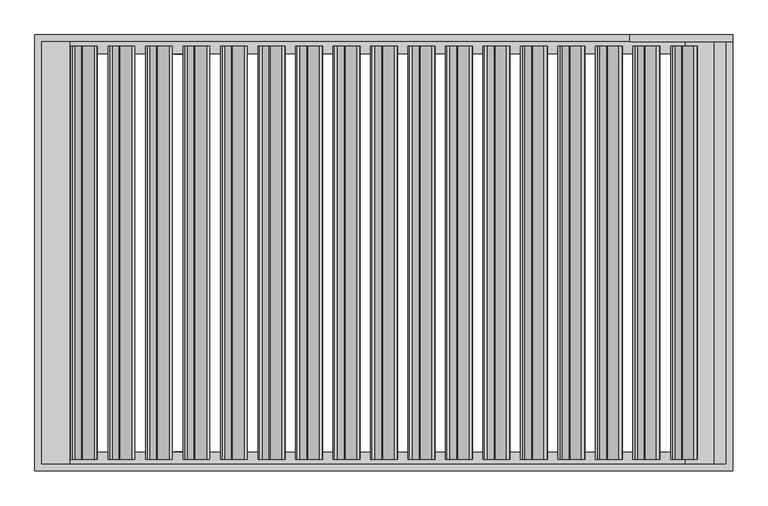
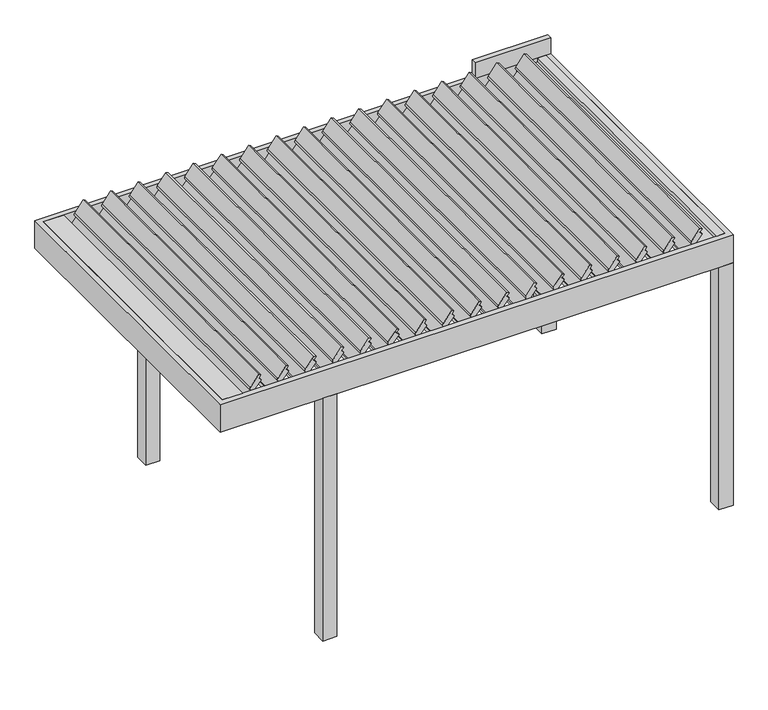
"""IFC4 building model written with IfcOpenShell, lengths in millimetres: proxy geometry, Renson_Algarve_Single : Algarve - Single."""

from ifc_helpers import new_model, si_unit, point, frame, frame_2d, origin, origin_with_axes, place, context, project, spatial, polyline, circle_curve, trimmed, segment, composite_curve, outline, extrude, faceted_brep, source, transform, mapped, element, save


def generic_models_5f7e2792(model_context):
    return source(origin(), model_context, "Body", "SolidModel", [
        extrude(outline(composite_curve([segment(polyline([(2268.6941425, 1583.0112963), (2288.328832, 1563.3766067), (2311.3082125, 1580.8505337), (2321.2056128, 1563.7077334), (2233.54674, 1497.0503775)]), True, "CONTINUOUS"), segment(trimmed(circle_curve(frame_2d((2224.4673302, 1508.9904076)), 15.0), [point((2233.54674, 1497.0503775))], [point((2214.825516, 1497.4997409))], False, "CARTESIAN"), True, "CONTINUOUS"), segment(polyline([(2214.825516, 1497.4997409), (2199.8675689, 1510.0509488), (2132.6580652, 1453.6554791), (2141.3292113, 1438.6366136), (2129.1546918, 1429.3788939), (2109.2836092, 1449.2499766), (2268.6941425, 1583.0112963)]), True, "CONTINUOUS")], self_intersect=False)), frame((0.0, -1185.0, 0.0), z_axis=(0.0, 1.0, 0.0), x_axis=(0.0, 0.0, 1.0)), (0.0, 0.0, 1.0), 2370.0),
        extrude(outline(composite_curve([segment(polyline([(2268.6941425, 1368.0004915), (2288.328832, 1348.3658019), (2311.3082125, 1365.8397289), (2321.2056128, 1348.6969286), (2233.54674, 1282.0395728)]), True, "CONTINUOUS"), segment(trimmed(circle_curve(frame_2d((2224.4673302, 1293.9796028)), 15.0), [point((2233.54674, 1282.0395728))], [point((2214.825516, 1282.4889361))], False, "CARTESIAN"), True, "CONTINUOUS"), segment(polyline([(2214.825516, 1282.4889361), (2199.8675689, 1295.0401441), (2132.6580652, 1238.6446743), (2141.3292113, 1223.6258088), (2129.1546918, 1214.3680891), (2109.2836092, 1234.2391718), (2268.6941425, 1368.0004915)]), True, "CONTINUOUS")], self_intersect=False)), frame((0.0, -1185.0, 0.0), z_axis=(0.0, 1.0, 0.0), x_axis=(0.0, 0.0, 1.0)), (0.0, 0.0, 1.0), 2370.0),
        extrude(outline(composite_curve([segment(polyline([(2268.6941425, 1152.9896867), (2288.328832, 1133.3549972), (2311.3082125, 1150.8289241), (2321.2056128, 1133.6861238), (2233.54674, 1067.028768)]), True, "CONTINUOUS"), segment(trimmed(circle_curve(frame_2d((2224.4673302, 1078.968798)), 15.0), [point((2233.54674, 1067.028768))], [point((2214.825516, 1067.4781314))], False, "CARTESIAN"), True, "CONTINUOUS"), segment(polyline([(2214.825516, 1067.4781314), (2199.8675689, 1080.0293393), (2132.6580652, 1023.6338695), (2141.3292113, 1008.615004), (2129.1546918, 999.3572843), (2109.2836092, 1019.228367), (2268.6941425, 1152.9896867)]), True, "CONTINUOUS")], self_intersect=False)), frame((0.0, -1185.0, 0.0), z_axis=(0.0, 1.0, 0.0), x_axis=(0.0, 0.0, 1.0)), (0.0, 0.0, 1.0), 2370.0),
        extrude(outline(composite_curve([segment(polyline([(2268.6941425, 937.9788819), (2288.328832, 918.3441924), (2311.3082125, 935.8181193), (2321.2056128, 918.675319), (2233.54674, 852.0179632)]), True, "CONTINUOUS"), segment(trimmed(circle_curve(frame_2d((2224.4673302, 863.9579932)), 15.0), [point((2233.54674, 852.0179632))], [point((2214.825516, 852.4673266))], False, "CARTESIAN"), True, "CONTINUOUS"), segment(polyline([(2214.825516, 852.4673266), (2199.8675689, 865.0185345), (2132.6580652, 808.6230647), (2141.3292113, 793.6041993), (2129.1546918, 784.3464796), (2109.2836092, 804.2175622), (2268.6941425, 937.9788819)]), True, "CONTINUOUS")], self_intersect=False)), frame((0.0, -1185.0, 0.0), z_axis=(0.0, 1.0, 0.0), x_axis=(0.0, 0.0, 1.0)), (0.0, 0.0, 1.0), 2370.0),
        extrude(outline(composite_curve([segment(polyline([(2268.6941425, 722.9680771), (2288.328832, 703.3333876), (2311.3082125, 720.8073145), (2321.2056128, 703.6645142), (2233.54674, 637.0071584)]), True, "CONTINUOUS"), segment(trimmed(circle_curve(frame_2d((2224.4673302, 648.9471885)), 15.0), [point((2233.54674, 637.0071584))], [point((2214.825516, 637.4565218))], False, "CARTESIAN"), True, "CONTINUOUS"), segment(polyline([(2214.825516, 637.4565218), (2199.8675689, 650.0077297), (2132.6580652, 593.61226), (2141.3292113, 578.5933945), (2129.1546918, 569.3356748), (2109.2836092, 589.2067574), (2268.6941425, 722.9680771)]), True, "CONTINUOUS")], self_intersect=False)), frame((0.0, -1185.0, 0.0), z_axis=(0.0, 1.0, 0.0), x_axis=(0.0, 0.0, 1.0)), (0.0, 0.0, 1.0), 2370.0),
        extrude(outline(composite_curve([segment(polyline([(2268.6941425, 507.9572723), (2288.328832, 488.3225828), (2311.3082125, 505.7965098), (2321.2056128, 488.6537095), (2233.54674, 421.9963536)]), True, "CONTINUOUS"), segment(trimmed(circle_curve(frame_2d((2224.4673302, 433.9363837)), 15.0), [point((2233.54674, 421.9963536))], [point((2214.825516, 422.445717))], False, "CARTESIAN"), True, "CONTINUOUS"), segment(polyline([(2214.825516, 422.445717), (2199.8675689, 434.9969249), (2132.6580652, 378.6014552), (2141.3292113, 363.5825897), (2129.1546918, 354.32487), (2109.2836092, 374.1959527), (2268.6941425, 507.9572723)]), True, "CONTINUOUS")], self_intersect=False)), frame((0.0, -1185.0, 0.0), z_axis=(0.0, 1.0, 0.0), x_axis=(0.0, 0.0, 1.0)), (0.0, 0.0, 1.0), 2370.0),
        extrude(outline(composite_curve([segment(polyline([(2268.6941425, 292.9464676), (2288.328832, 273.311778), (2311.3082125, 290.785705), (2321.2056128, 273.6429047), (2233.54674, 206.9855488)]), True, "CONTINUOUS"), segment(trimmed(circle_curve(frame_2d((2224.4673302, 218.9255789)), 15.0), [point((2233.54674, 206.9855488))], [point((2214.825516, 207.4349122))], False, "CARTESIAN"), True, "CONTINUOUS"), segment(polyline([(2214.825516, 207.4349122), (2199.8675689, 219.9861202), (2132.6580652, 163.5906504), (2141.3292113, 148.5717849), (2129.1546918, 139.3140652), (2109.2836092, 159.1851479), (2268.6941425, 292.9464676)]), True, "CONTINUOUS")], self_intersect=False)), frame((0.0, -1185.0, 0.0), z_axis=(0.0, 1.0, 0.0), x_axis=(0.0, 0.0, 1.0)), (0.0, 0.0, 1.0), 2370.0),
        extrude(outline(composite_curve([segment(polyline([(2268.6941425, 77.9356628), (2288.328832, 58.3009732), (2311.3082125, 75.7749002), (2321.2056128, 58.6320999), (2233.54674, -8.0252559)]), True, "CONTINUOUS"), segment(trimmed(circle_curve(frame_2d((2224.4673302, 3.9147741)), 15.0), [point((2233.54674, -8.0252559))], [point((2214.825516, -7.5758925))], False, "CARTESIAN"), True, "CONTINUOUS"), segment(polyline([(2214.825516, -7.5758925), (2199.8675689, 4.9753154), (2132.6580652, -51.4201544), (2141.3292113, -66.4390199), (2129.1546918, -75.6967396), (2109.2836092, -55.8256569), (2268.6941425, 77.9356628)]), True, "CONTINUOUS")], self_intersect=False)), frame((0.0, -1185.0, 0.0), z_axis=(0.0, 1.0, 0.0), x_axis=(0.0, 0.0, 1.0)), (0.0, 0.0, 1.0), 2370.0),
        extrude(outline(composite_curve([segment(polyline([(2268.6941425, -137.075142), (2288.328832, -156.7098315), (2311.3082125, -139.2359046), (2321.2056128, -156.3787049), (2233.54674, -223.0360607)]), True, "CONTINUOUS"), segment(trimmed(circle_curve(frame_2d((2224.4673302, -211.0960307)), 15.0), [point((2233.54674, -223.0360607))], [point((2214.825516, -222.5866973))], False, "CARTESIAN"), True, "CONTINUOUS"), segment(polyline([(2214.825516, -222.5866973), (2199.8675689, -210.0354894), (2132.6580652, -266.4309592), (2141.3292113, -281.4498246), (2129.1546918, -290.7075443), (2109.2836092, -270.8364617), (2268.6941425, -137.075142)]), True, "CONTINUOUS")], self_intersect=False)), frame((0.0, -1185.0, 0.0), z_axis=(0.0, 1.0, 0.0), x_axis=(0.0, 0.0, 1.0)), (0.0, 0.0, 1.0), 2370.0),
        extrude(outline(composite_curve([segment(polyline([(2268.6941425, -352.0859468), (2288.328832, -371.7206363), (2311.3082125, -354.2467094), (2321.2056128, -371.3895097), (2233.54674, -438.0468655)]), True, "CONTINUOUS"), segment(trimmed(circle_curve(frame_2d((2224.4673302, -426.1068355)), 15.0), [point((2233.54674, -438.0468655))], [point((2214.825516, -437.5975021))], False, "CARTESIAN"), True, "CONTINUOUS"), segment(polyline([(2214.825516, -437.5975021), (2199.8675689, -425.0462942), (2132.6580652, -481.4417639), (2141.3292113, -496.4606294), (2129.1546918, -505.7183491), (2109.2836092, -485.8472665), (2268.6941425, -352.0859468)]), True, "CONTINUOUS")], self_intersect=False)), frame((0.0, -1185.0, 0.0), z_axis=(0.0, 1.0, 0.0), x_axis=(0.0, 0.0, 1.0)), (0.0, 0.0, 1.0), 2370.0),
        extrude(outline(composite_curve([segment(polyline([(2268.6941425, -567.0967516), (2288.328832, -586.7314411), (2311.3082125, -569.2575141), (2321.2056128, -586.4003144), (2233.54674, -653.0576703)]), True, "CONTINUOUS"), segment(trimmed(circle_curve(frame_2d((2224.4673302, -641.1176402)), 15.0), [point((2233.54674, -653.0576703))], [point((2214.825516, -652.6083069))], False, "CARTESIAN"), True, "CONTINUOUS"), segment(polyline([(2214.825516, -652.6083069), (2199.8675689, -640.057099), (2132.6580652, -696.4525687), (2141.3292113, -711.4714342), (2129.1546918, -720.7291539), (2109.2836092, -700.8580713), (2268.6941425, -567.0967516)]), True, "CONTINUOUS")], self_intersect=False)), frame((0.0, -1185.0, 0.0), z_axis=(0.0, 1.0, 0.0), x_axis=(0.0, 0.0, 1.0)), (0.0, 0.0, 1.0), 2370.0),
        extrude(outline(composite_curve([segment(polyline([(2268.6941425, -782.1075563), (2288.328832, -801.7422459), (2311.3082125, -784.2683189), (2321.2056128, -801.4111192), (2233.54674, -868.0684751)]), True, "CONTINUOUS"), segment(trimmed(circle_curve(frame_2d((2224.4673302, -856.128445)), 15.0), [point((2233.54674, -868.0684751))], [point((2214.825516, -867.6191117))], False, "CARTESIAN"), True, "CONTINUOUS"), segment(polyline([(2214.825516, -867.6191117), (2199.8675689, -855.0679037), (2132.6580652, -911.4633735), (2141.3292113, -926.482239), (2129.1546918, -935.7399587), (2109.2836092, -915.868876), (2268.6941425, -782.1075563)]), True, "CONTINUOUS")], self_intersect=False)), frame((0.0, -1185.0, 0.0), z_axis=(0.0, 1.0, 0.0), x_axis=(0.0, 0.0, 1.0)), (0.0, 0.0, 1.0), 2370.0),
        extrude(outline(composite_curve([segment(polyline([(2268.6941425, -997.1183611), (2288.328832, -1016.7530507), (2311.3082125, -999.2791237), (2321.2056128, -1016.421924), (2233.54674, -1083.0792798)]), True, "CONTINUOUS"), segment(trimmed(circle_curve(frame_2d((2224.4673302, -1071.1392498)), 15.0), [point((2233.54674, -1083.0792798))], [point((2214.825516, -1082.6299164))], False, "CARTESIAN"), True, "CONTINUOUS"), segment(polyline([(2214.825516, -1082.6299164), (2199.8675689, -1070.0787085), (2132.6580652, -1126.4741783), (2141.3292113, -1141.4930438), (2129.1546918, -1150.7507635), (2109.2836092, -1130.8796808), (2268.6941425, -997.1183611)]), True, "CONTINUOUS")], self_intersect=False)), frame((0.0, -1185.0, 0.0), z_axis=(0.0, 1.0, 0.0), x_axis=(0.0, 0.0, 1.0)), (0.0, 0.0, 1.0), 2370.0),
        extrude(outline(composite_curve([segment(polyline([(2268.6941425, -1212.1291659), (2288.328832, -1231.7638554), (2311.3082125, -1214.2899285), (2321.2056128, -1231.4327288), (2233.54674, -1298.0900846)]), True, "CONTINUOUS"), segment(trimmed(circle_curve(frame_2d((2224.4673302, -1286.1500546)), 15.0), [point((2233.54674, -1298.0900846))], [point((2214.825516, -1297.6407212))], False, "CARTESIAN"), True, "CONTINUOUS"), segment(polyline([(2214.825516, -1297.6407212), (2199.8675689, -1285.0895133), (2132.6580652, -1341.4849831), (2141.3292113, -1356.5038486), (2129.1546918, -1365.7615683), (2109.2836092, -1345.8904856), (2268.6941425, -1212.1291659)]), True, "CONTINUOUS")], self_intersect=False)), frame((0.0, -1185.0, 0.0), z_axis=(0.0, 1.0, 0.0), x_axis=(0.0, 0.0, 1.0)), (0.0, 0.0, 1.0), 2370.0),
        extrude(outline(composite_curve([segment(polyline([(2268.6941425, -1427.1399707), (2288.328832, -1446.7746602), (2311.3082125, -1429.3007333), (2321.2056128, -1446.4435336), (2233.54674, -1513.1008894)]), True, "CONTINUOUS"), segment(trimmed(circle_curve(frame_2d((2224.4673302, -1501.1608594)), 15.0), [point((2233.54674, -1513.1008894))], [point((2214.825516, -1512.651526))], False, "CARTESIAN"), True, "CONTINUOUS"), segment(polyline([(2214.825516, -1512.651526), (2199.8675689, -1500.1003181), (2132.6580652, -1556.4957879), (2141.3292113, -1571.5146533), (2129.1546918, -1580.772373), (2109.2836092, -1560.9012904), (2268.6941425, -1427.1399707)]), True, "CONTINUOUS")], self_intersect=False)), frame((0.0, -1185.0, 0.0), z_axis=(0.0, 1.0, 0.0), x_axis=(0.0, 0.0, 1.0)), (0.0, 0.0, 1.0), 2370.0),
        extrude(outline(composite_curve([segment(polyline([(2268.6941425, 1798.022101), (2288.328832, 1778.3874115), (2311.3082125, 1795.8613385), (2321.2056128, 1778.7185382), (2233.54674, 1712.0611823)]), True, "CONTINUOUS"), segment(trimmed(circle_curve(frame_2d((2224.4673302, 1724.0012124)), 15.0), [point((2233.54674, 1712.0611823))], [point((2214.825516, 1712.5105457))], False, "CARTESIAN"), True, "CONTINUOUS"), segment(polyline([(2214.825516, 1712.5105457), (2199.8675689, 1725.0617536), (2132.6580652, 1668.6662839), (2141.3292113, 1653.6474184), (2129.1546918, 1644.3896987), (2109.2836092, 1664.2607813), (2268.6941425, 1798.022101)]), True, "CONTINUOUS")], self_intersect=False)), frame((0.0, -1185.0, 0.0), z_axis=(0.0, 1.0, 0.0), x_axis=(0.0, 0.0, 1.0)), (0.0, 0.0, 1.0), 2370.0),
        extrude(outline(composite_curve([segment(polyline([(2268.6941425, -1642.1507755), (2288.328832, -1661.785465), (2311.3082125, -1644.3115381), (2321.2056128, -1661.4543384), (2233.54674, -1728.1116942)]), True, "CONTINUOUS"), segment(trimmed(circle_curve(frame_2d((2224.4673302, -1716.1716641)), 15.0), [point((2233.54674, -1728.1116942))], [point((2214.825516, -1727.6623308))], False, "CARTESIAN"), True, "CONTINUOUS"), segment(polyline([(2214.825516, -1727.6623308), (2199.8675689, -1715.1111229), (2132.6580652, -1771.5065926), (2141.3292113, -1786.5254581), (2129.1546918, -1795.7831778), (2109.2836092, -1775.9120952), (2268.6941425, -1642.1507755)]), True, "CONTINUOUS")], self_intersect=False)), frame((0.0, -1185.0, 0.0), z_axis=(0.0, 1.0, 0.0), x_axis=(0.0, 0.0, 1.0)), (0.0, 0.0, 1.0), 2370.0),
        extrude(outline(polyline([(2168.0, 1960.0), (2230.0, 1960.0), (2230.0, 1896.0), (2198.0, 1896.0), (2198.0, 1730.0), (2168.0, 1730.0), (2168.0, 1960.0)])), frame((0.0, -1210.0, 0.0), z_axis=(0.0, 1.0, 0.0), x_axis=(0.0, 0.0, 1.0)), (0.0, 0.0, 1.0), 2420.0),
        extrude(outline(polyline([(2230.0, -1800.0), (2230.0, -1960.0), (2186.0, -1960.0), (2186.0, -1827.3193336), (2219.1716603, -1824.4171894), (2220.344502, -1800.0), (2230.0, -1800.0)])), frame((0.0, -1210.0, 0.0), z_axis=(0.0, 1.0, 0.0), x_axis=(0.0, 0.0, 1.0)), (0.0, 0.0, 1.0), 2420.0),
        extrude(outline(polyline([(-1090.0, -1250.0), (-1200.0, -1250.0), (-1200.0, -1140.0), (-1090.0, -1140.0), (-1090.0, -1250.0)])), origin_with_axes(), (0.0, 0.0, 1.0), 2000.0),
        extrude(outline(polyline([(-1090.0, 1250.0), (-1090.0, 1140.0), (-1200.0, 1140.0), (-1200.0, 1250.0), (-1090.0, 1250.0)])), origin_with_axes(), (0.0, 0.0, 1.0), 2000.0),
        faceted_brep([(1890.0, 1140.0, 2057.0), (1890.0, 1140.0, 2000.0), (1890.0, -1140.0, 2000.0), (1890.0, -1140.0, 2057.0), (2000.0, 1250.0, 2000.0), (2000.0, 1250.0, 2230.0), (2000.0, -1250.0, 2230.0), (2000.0, -1250.0, 2000.0), (1960.0, 1210.0, 2230.0), (1960.0, 1210.0, 2057.0), (1960.0, -1210.0, 2057.0), (1960.0, -1210.0, 2230.0), (-1890.0, -1140.0, 2000.0), (-1890.0, -1140.0, 2057.0), (-2000.0, -1250.0, 2230.0), (-2000.0, -1250.0, 2000.0), (-1960.0, -1210.0, 2057.0), (-1960.0, -1210.0, 2230.0), (-1890.0, 1140.0, 2000.0), (-1890.0, 1140.0, 2057.0), (-2000.0, 1250.0, 2230.0), (-2000.0, 1250.0, 2000.0), (-1960.0, 1210.0, 2057.0), (-1960.0, 1210.0, 2230.0)], [[[0, 1, 2, 3]], [[4, 5, 6, 7]], [[8, 9, 10, 11]], [[3, 2, 12, 13]], [[7, 6, 14, 15]], [[11, 10, 16, 17]], [[13, 12, 18, 19]], [[15, 14, 20, 21]], [[17, 16, 22, 23]], [[9, 22, 16, 10], [3, 13, 19, 0]], [[19, 18, 1, 0]], [[7, 15, 21, 4], [1, 18, 12, 2]], [[21, 20, 5, 4]], [[5, 20, 14, 6], [11, 17, 23, 8]], [[23, 22, 9, 8]]]),
        extrude(outline(polyline([(2000.0, 1250.0), (2000.0, 1140.0), (1890.0, 1140.0), (1890.0, 1250.0), (2000.0, 1250.0)])), origin_with_axes(), (0.0, 0.0, 1.0), 2000.0),
        extrude(outline(polyline([(2000.0, -1140.0), (2000.0, -1250.0), (1890.0, -1250.0), (1890.0, -1140.0), (2000.0, -1140.0)])), origin_with_axes(), (0.0, 0.0, 1.0), 2000.0),
        extrude(outline(polyline([(2000.0, 1250.0), (2000.0, 1210.0), (1410.0, 1210.0), (1410.0, 1250.0), (2000.0, 1250.0)])), frame((0.0, 0.0, 2230.0), z_axis=(0.0, 0.0, 1.0), x_axis=(1.0, 0.0, 0.0)), (0.0, 0.0, 1.0), 130.0),
    ])


if __name__ == "__main__":
    model = new_model("IFC4")
    model_context = context("Model", 3, world=origin())
    ifc_project = project(units=[si_unit("LENGTHUNIT", "METRE", prefix="MILLI")], contexts=[model_context])
    site = spatial("IfcSite", under=ifc_project)
    building = spatial("IfcBuilding", under=site)
    placement = place(None, origin())
    generic_models_shape = generic_models_5f7e2792(model_context)
    element("IfcBuildingElementProxy", 1, Name="Renson_Algarve_Single : Algarve - Single", ObjectType="Renson_Algarve_Single : Algarve - Single", at=placement, inside=building, context=model_context, shape_type="MappedRepresentation", body=[
        mapped(generic_models_shape, transform((0.0, 0.0, 0.0), x_axis=(1.0, 0.0, 0.0), y_axis=(0.0, 1.0, 0.0), z_axis=(0.0, 0.0, 1.0))),
    ])
    save(model, "model.ifc")
